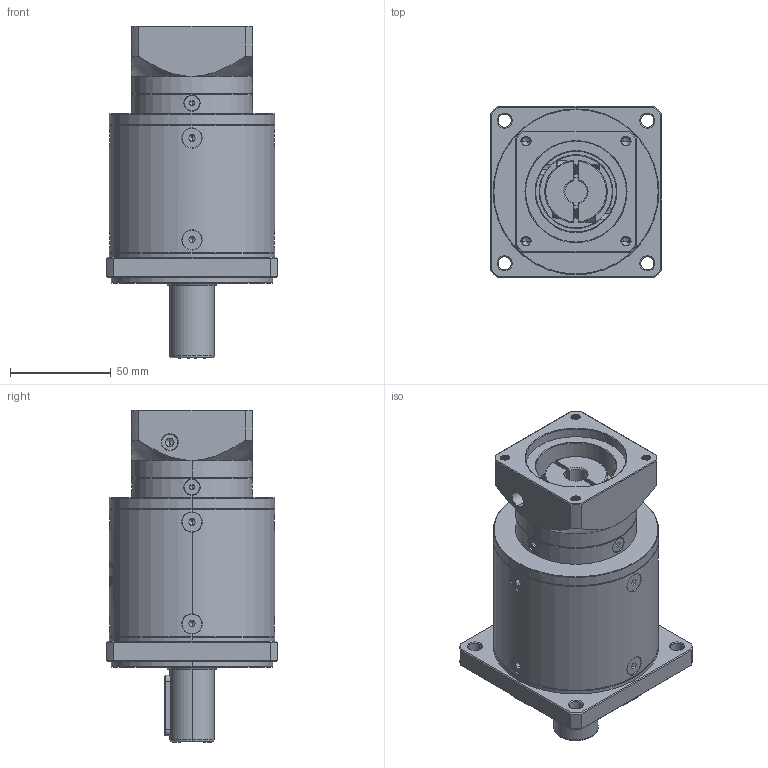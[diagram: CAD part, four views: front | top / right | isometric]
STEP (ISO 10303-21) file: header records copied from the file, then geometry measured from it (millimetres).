
FILE_DESCRIPTION (( 'STEP AP214' ), '1' );
FILE_NAME ('ZF80-D22-L3-11-50-70-M5.step', '2022-05-08T09:27:29', ( '' ), ( 'Microsoft' ), 'SwSTEP 2.0', 'SolidWorks 2016', '' );
FILE_SCHEMA (( 'AUTOMOTIVE_DESIGN' ));
Length unit declared in the file: millimetre
Products named in the file (1): ZF80-D22-L3-11-50-70-M5
Bounding box: 85 x 85 x 164.5 mm (x, y, z)
Volume: 574691.9 mm3; surface area: 73319.3 mm2
Topology: 18 solids, 18 shells, 2041 faces, 5345 edges, 3400 vertices
Faces by surface type: plane 948, cylinder 425, bspline 328, cone 326, torus 14
Entity records: 111038 total; most frequent: CARTESIAN_POINT 41870, ORIENTED_EDGE 10614, DIRECTION 8462, EDGE_CURVE 5307, VERTEX_POINT 3400, LINE 2862, VECTOR 2862, AXIS2_PLACEMENT_3D 2800
